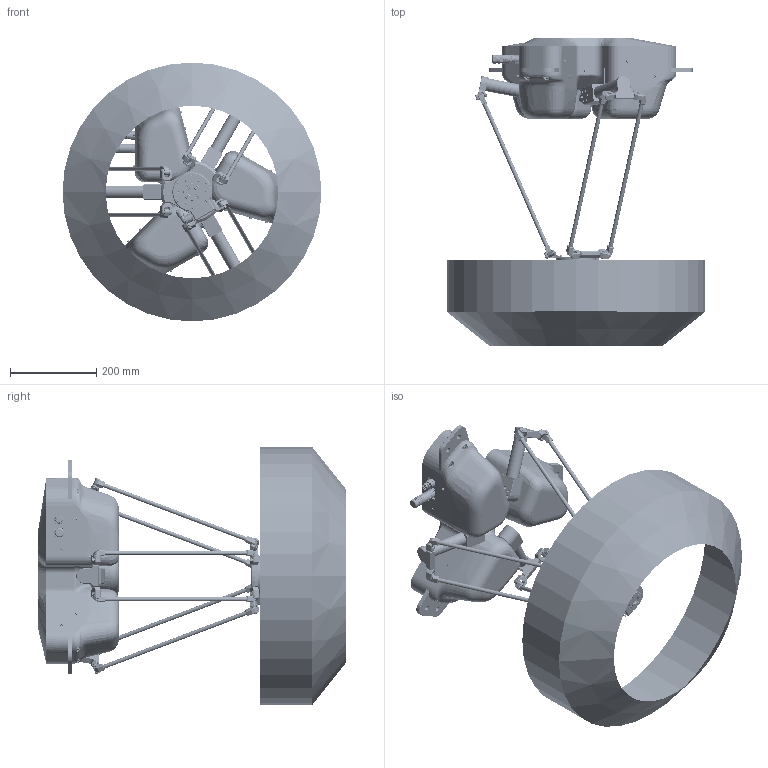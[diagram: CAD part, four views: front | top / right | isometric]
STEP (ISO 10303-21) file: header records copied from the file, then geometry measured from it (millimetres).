
FILE_DESCRIPTION((''),'2;1');
FILE_NAME('ZRC-0306N_STP','2022-05-11T16:18:14',('SonJeongWon'),(''),'CREO PARAMETRIC BY PTC INC, 2020354','CREO PARAMETRIC BY PTC INC, 2020354','');
FILE_SCHEMA(('CONFIG_CONTROL_DESIGN'));
Length unit declared in the file: millimetre
Products named in the file (1): ZRC-0306N_STP
Bounding box: 600 x 715 x 600 mm (x, y, z)
Volume: 3029152.1 mm3; surface area: 1755470 mm2
Topology: 16 solids, 29 shells, 6797 faces, 17128 edges, 10450 vertices
Faces by surface type: plane 3139, cylinder 1623, cone 1124, bspline 574, torus 305, extrusion 19, sphere 11, revolution 2
Entity records: 363245 total; most frequent: CARTESIAN_POINT 206137, ORIENTED_EDGE 33914, DIRECTION 30946, EDGE_CURVE 16959, AXIS2_PLACEMENT_3D 11373, VERTEX_POINT 10441, VECTOR 8198, LINE 8179
